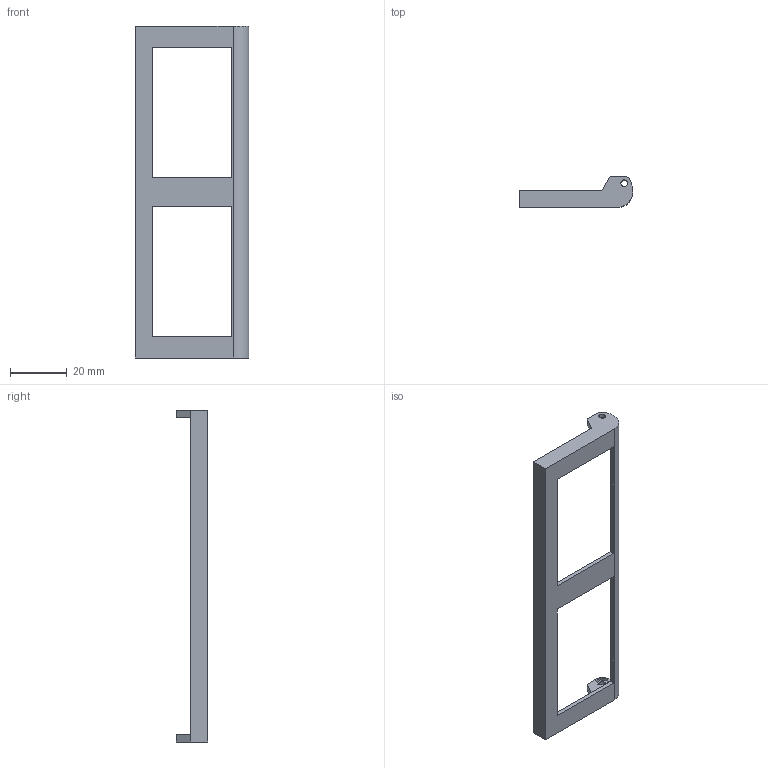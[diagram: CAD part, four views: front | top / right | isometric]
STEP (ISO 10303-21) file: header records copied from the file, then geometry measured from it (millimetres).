
FILE_DESCRIPTION(/* description */ (''),/* implementation_level */ '2;1');
FILE_NAME(/* name */ 'C:/Users/priba/Downloads/mrm-lid-b-w117.step',/* time_stamp */ '2022-04-03T23:52:37+02:00',/* author */ (''),/* organization */ (''),/* preprocessor_version */ 'ST-DEVELOPER v18.1',/* originating_system */ 'Autodesk Translation Framework v10.13.0.1454',/* authorisation */ '');
FILE_SCHEMA (('AUTOMOTIVE_DESIGN { 1 0 10303 214 3 1 1 }'));
Length unit declared in the file: millimetre
Products named in the file (1): mrm-lid-b-w117
Bounding box: 40 x 11 x 117 mm (x, y, z)
Volume: 5122 mm3; surface area: 7647.6 mm2
Topology: 1 solids, 1 shells, 52 faces, 142 edges, 94 vertices
Faces by surface type: plane 46, cylinder 6
Full cylindrical faces by diameter (mm): 2.4 x2
Entity records: 1671 total; most frequent: CARTESIAN_POINT 289, ORIENTED_EDGE 284, DIRECTION 260, EDGE_CURVE 142, LINE 130, VECTOR 130, VERTEX_POINT 94, AXIS2_PLACEMENT_3D 65
